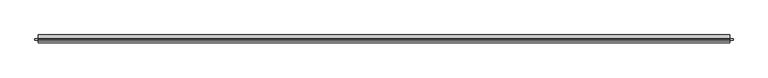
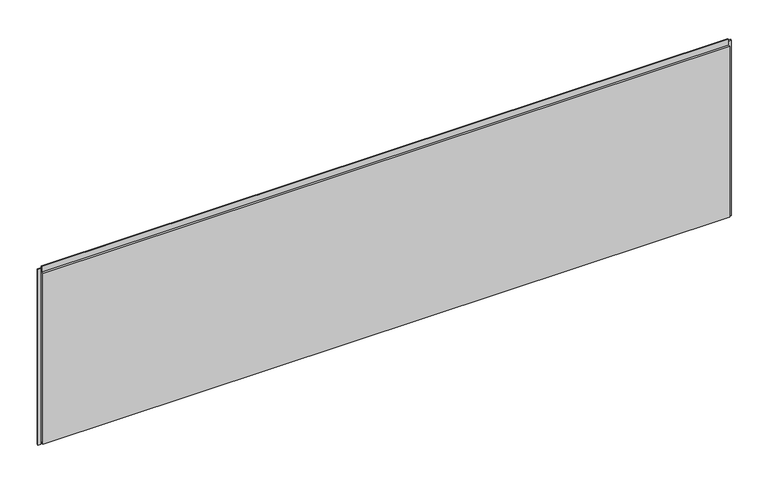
"""IFC4 building model written with IfcOpenShell, lengths in millimetres: plate geometry, Trimo_Qbiss Screen_Normal Panel-HORIZONTAL : HR - B."""

from ifc_helpers import new_model, si_unit, frame, origin, place, context, project, spatial, polyline, outline, extrude, source, transform, mapped, element, save


def plate_59370a8b(model_context):
    return source(origin(), model_context, "Body", "SweptSolid", [
        extrude(outline(polyline([(-2169.9549816, 76.5978162), (-2169.9549816, 67.8978162), (-2188.9549816, 67.8978162), (-2188.9549816, 76.5978162), (-2169.9549816, 76.5978162)])), frame((0.0, 0.0, -1.0), z_axis=(0.0, 0.0, 1.0), x_axis=(1.0, 0.0, 0.0)), (0.0, 0.0, 1.0), 1172.5),
        extrude(outline(polyline([(2169.9549816, 67.8978162), (2169.9549816, 76.5978162), (2188.9549816, 76.5978162), (2188.9549816, 67.8978162), (2169.9549816, 67.8978162)])), frame((0.0, 0.0, -1.0), z_axis=(0.0, 0.0, 1.0), x_axis=(1.0, 0.0, 0.0)), (0.0, 0.0, 1.0), 1172.5),
        extrude(outline(polyline([(2166.9549816, 76.0), (2166.9549816, 71.0), (-2166.9549816, 71.0), (-2166.9549816, 76.0), (2166.9549816, 76.0)])), frame((0.0, 0.0, 1150.5), z_axis=(0.0, 0.0, 1.0), x_axis=(1.0, 0.0, 0.0)), (0.0, 0.0, 1.0), 21.0),
        extrude(outline(polyline([(71.0, 1149.5), (100.0, 1149.5), (100.0, 0.0), (72.0, 0.0), (72.0, 15.5), (62.0, 15.5), (62.0, 7.0), (50.0, 7.0), (50.0, 1149.5), (63.0, 1149.5), (63.0, 1187.0), (71.0, 1187.0), (71.0, 1149.5)])), frame((-2166.9549816, 0.0, 0.0), z_axis=(1.0, 0.0, 0.0), x_axis=(0.0, 1.0, 0.0)), (0.0, 0.0, 1.0), 4333.9099631),
    ])


if __name__ == "__main__":
    model = new_model("IFC4")
    model_context = context("Model", 3, world=origin())
    ifc_project = project(units=[si_unit("LENGTHUNIT", "METRE", prefix="MILLI")], contexts=[model_context])
    site = spatial("IfcSite", under=ifc_project)
    building = spatial("IfcBuilding", under=site)
    placement = place(None, origin())
    plate_shape = plate_59370a8b(model_context)
    element("IfcPlate", 1, ObjectType="Trimo_Qbiss Screen_Normal Panel-HORIZONTAL : HR - B", at=placement, inside=building, context=model_context, shape_type="MappedRepresentation", body=[
        mapped(plate_shape, transform((0.0, 0.0, 0.0), x_axis=(1.0, 0.0, 0.0), y_axis=(0.0, 1.0, 0.0), z_axis=(0.0, 0.0, 1.0))),
    ])
    save(model, "model.ifc")
